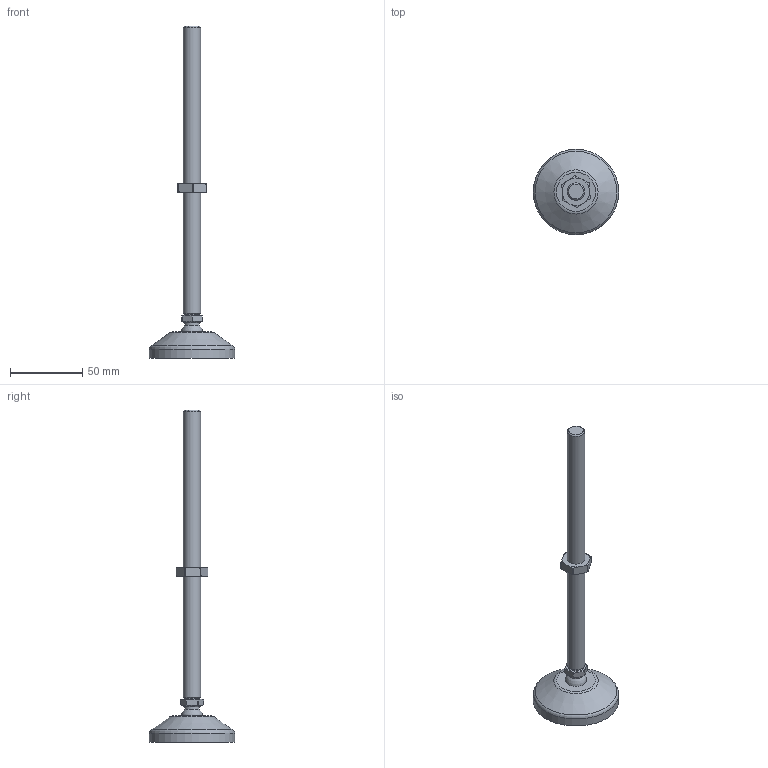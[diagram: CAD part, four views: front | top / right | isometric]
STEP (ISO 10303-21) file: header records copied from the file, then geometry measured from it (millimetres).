
FILE_DESCRIPTION(('STEP AP242'),'1');
FILE_NAME('TAPID60M12200PA.stp','2026-10-12T10:15:34',(' '),(' '),'Spatial InterOp 3D',' ',' ');
FILE_SCHEMA(('AP242_MANAGED_MODEL_BASED_3D_ENGINEERING_MIM_LF {1 0 10303 442 1 1 4}'));
Length unit declared in the file: millimetre
Products named in the file (5): Pied Ø60 M12x200 articulé réglable (+/- 35mm); Ecrou H DIN 439 M12; Tige filetée M12x200 (Ø15); Embase PA Ø60 (Ø15); TAPID60M12200PA
Assembly tree (4 placements, depth 3):
  TAPID60M12200PA
    Pied Ø60 M12x200 articulé réglable (+/- 35mm)
      Ecrou H DIN 439 M12
      Tige filetée M12x200 (Ø15)
      Embase PA Ø60 (Ø15)
Bounding box: 59 x 59 x 229.5 mm (x, y, z)
Volume: 53364.8 mm3; surface area: 18073.6 mm2
Topology: 3 solids, 4 shells, 80 faces, 173 edges, 103 vertices
Faces by surface type: torus 30, plane 22, cylinder 20, cone 6, sphere 2
Full cylindrical faces by diameter (mm): 10 x1, 10.2 x1, 10.25 x1, 12 x1, 15 x2, 51 x1, 59 x1
Entity records: 3397 total; most frequent: CARTESIAN_POINT 909, DIRECTION 346, ORIENTED_EDGE 294, AXIS2_PLACEMENT_3D 161, EDGE_CURVE 147, EDGE_LOOP 106, VERTEX_POINT 99, FACE_OUTER_BOUND 94
